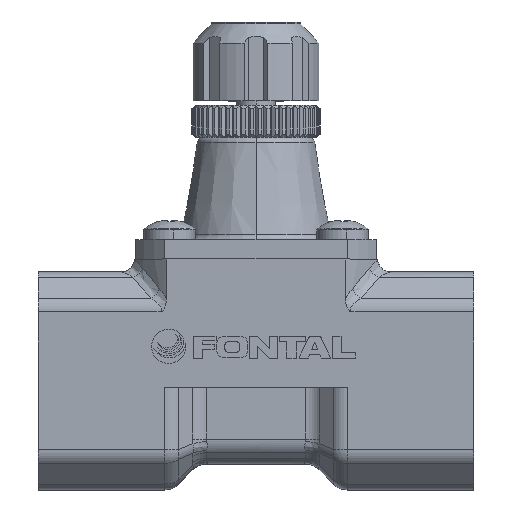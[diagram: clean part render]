
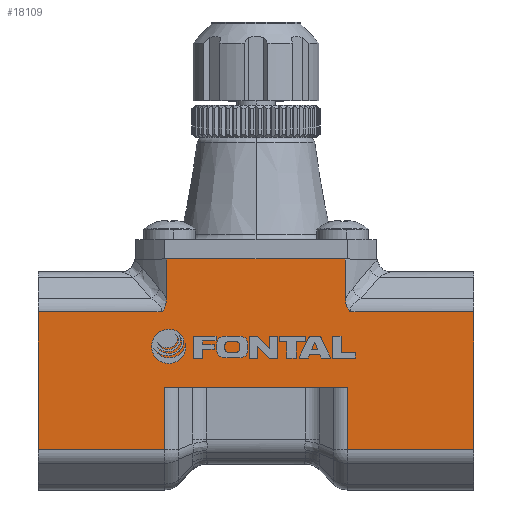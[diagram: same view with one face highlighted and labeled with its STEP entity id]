
A CAD part, top view. The second image highlights one B-rep face of the part: STEP entity #18109.
In plain terms, the highlighted planar face has unit normal (0, 0, 1) as drawn and (-1, 0, 0) by its records, which use the part's own axes.
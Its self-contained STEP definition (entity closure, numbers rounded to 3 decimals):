
#220 = CARTESIAN_POINT ( 'NONE',  ( -17., -9.757, 34. ) ) ;
#242 = DIRECTION ( 'NONE',  ( 0., 0., 1. ) ) ;
#511 = CARTESIAN_POINT ( 'NONE',  ( -17., 13.466, -13.978 ) ) ;
#575 = CARTESIAN_POINT ( 'NONE',  ( -17., 13.098, -14.033 ) ) ;
#764 = CARTESIAN_POINT ( 'NONE',  ( -17., 13.84, -13.964 ) ) ;
#838 = VERTEX_POINT ( 'NONE', #16620 ) ;
#842 = CARTESIAN_POINT ( 'NONE',  ( -17., 10.26, -13.964 ) ) ;
#843 = CARTESIAN_POINT ( 'NONE',  ( -17., -9.757, -34. ) ) ;
#1017 = VERTEX_POINT ( 'NONE', #11555 ) ;
#1376 = VECTOR ( 'NONE', #15340, 1000. ) ;
#1494 = CARTESIAN_POINT ( 'NONE',  ( -17., 12.141, 14.396 ) ) ;
#1591 = CARTESIAN_POINT ( 'NONE',  ( -17., 11.757, 34. ) ) ;
#1682 = EDGE_CURVE ( 'NONE', #10373, #7905, #14264, .T. ) ;
#1846 = EDGE_CURVE ( 'NONE', #838, #14565, #6439, .T. ) ;
#1975 = CARTESIAN_POINT ( 'NONE',  ( -17., 12.142, -14.395 ) ) ;
#2184 = DIRECTION ( 'NONE',  ( 0., -1., 0. ) ) ;
#2778 = ORIENTED_EDGE ( 'NONE', *, *, #6219, .T. ) ;
#2970 = VERTEX_POINT ( 'NONE', #18181 ) ;
#3002 = CARTESIAN_POINT ( 'NONE',  ( -17., 0., 34. ) ) ;
#3122 = CARTESIAN_POINT ( 'NONE',  ( -17., 11.83, 14.604 ) ) ;
#3200 = CARTESIAN_POINT ( 'NONE',  ( -17., 13., 34. ) ) ;
#3213 = LINE ( 'NONE', #842, #11991 ) ;
#3458 = CARTESIAN_POINT ( 'NONE',  ( -17., 11.906, -14.547 ) ) ;
#3623 = ORIENTED_EDGE ( 'NONE', *, *, #12950, .T. ) ;
#3643 = DIRECTION ( 'NONE',  ( -1., 0., 0. ) ) ;
#3830 = LINE ( 'NONE', #10091, #12393 ) ;
#3950 = CARTESIAN_POINT ( 'NONE',  ( -17., -9.757, -14.243 ) ) ;
#4110 = EDGE_CURVE ( 'NONE', #14861, #11381, #3213, .T. ) ;
#4256 = LINE ( 'NONE', #220, #15692 ) ;
#4329 = ORIENTED_EDGE ( 'NONE', *, *, #5405, .T. ) ;
#4428 = CARTESIAN_POINT ( 'NONE',  ( -17., 13.84, 13.964 ) ) ;
#4915 = CARTESIAN_POINT ( 'NONE',  ( -17., 12.387, -14.263 ) ) ;
#4934 = CARTESIAN_POINT ( 'NONE',  ( -17., 11.757, -14.663 ) ) ;
#5208 = LINE ( 'NONE', #11065, #1376 ) ;
#5322 = ORIENTED_EDGE ( 'NONE', *, *, #1682, .T. ) ;
#5405 = EDGE_CURVE ( 'NONE', #7905, #9898, #12638, .T. ) ;
#5795 = DIRECTION ( 'NONE',  ( 0., 0., -1. ) ) ;
#5829 = DIRECTION ( 'NONE',  ( 0., -1., 0. ) ) ;
#6130 = DIRECTION ( 'NONE',  ( 0., 0., 1. ) ) ;
#6219 = EDGE_CURVE ( 'NONE', #9898, #8560, #4256, .T. ) ;
#6297 = VERTEX_POINT ( 'NONE', #8821 ) ;
#6368 = CARTESIAN_POINT ( 'NONE',  ( -17., 11.757, -14.663 ) ) ;
#6384 = CARTESIAN_POINT ( 'NONE',  ( -17., 20., -19. ) ) ;
#6439 = LINE ( 'NONE', #3200, #11605 ) ;
#6655 = CARTESIAN_POINT ( 'NONE',  ( -17., 0., 14.243 ) ) ;
#6673 = PLANE ( 'NONE',  #16126 ) ;
#6918 = EDGE_CURVE ( 'NONE', #13322, #17934, #14985, .T. ) ;
#7198 = CARTESIAN_POINT ( 'NONE',  ( -17., 20., -13.964 ) ) ;
#7221 = CARTESIAN_POINT ( 'NONE',  ( -17., 11.757, 14.663 ) ) ;
#7277 = CARTESIAN_POINT ( 'NONE',  ( -17., 12.561, 14.19 ) ) ;
#7356 = CARTESIAN_POINT ( 'NONE',  ( -17., -9.757, 34. ) ) ;
#7526 = LINE ( 'NONE', #16191, #14433 ) ;
#7905 = VERTEX_POINT ( 'NONE', #16326 ) ;
#7963 = DIRECTION ( 'NONE',  ( 0., 0., 1. ) ) ;
#8560 = VERTEX_POINT ( 'NONE', #3950 ) ;
#8654 = CARTESIAN_POINT ( 'NONE',  ( -17., 11.906, 14.547 ) ) ;
#8714 = CARTESIAN_POINT ( 'NONE',  ( -17., 13.096, 14.017 ) ) ;
#8779 = CARTESIAN_POINT ( 'NONE',  ( -17., 12.061, 14.444 ) ) ;
#8821 = CARTESIAN_POINT ( 'NONE',  ( -17., 0., -14.243 ) ) ;
#9126 = CARTESIAN_POINT ( 'NONE',  ( -17., 13.84, -13.964 ) ) ;
#9147 = CARTESIAN_POINT ( 'NONE',  ( -17., 13., -34. ) ) ;
#9435 = DIRECTION ( 'NONE',  ( 0., 0., 1. ) ) ;
#9584 = CARTESIAN_POINT ( 'NONE',  ( -17., 11.757, 14.663 ) ) ;
#9856 = EDGE_CURVE ( 'NONE', #838, #13322, #7526, .T. ) ;
#9898 = VERTEX_POINT ( 'NONE', #843 ) ;
#10091 = CARTESIAN_POINT ( 'NONE',  ( -17., -9.757, 14.243 ) ) ;
#10124 = LINE ( 'NONE', #7356, #13474 ) ;
#10160 = CARTESIAN_POINT ( 'NONE',  ( -17., 13.464, 13.964 ) ) ;
#10186 = EDGE_LOOP ( 'NONE', ( #14265, #12706, #3623, #17964, #15820, #14203, #5322, #4329, #2778, #15157, #13163, #16021, #11203, #11326 ) ) ;
#10373 = VERTEX_POINT ( 'NONE', #4934 ) ;
#10393 = EDGE_CURVE ( 'NONE', #14861, #1017, #12019, .T. ) ;
#10487 = VECTOR ( 'NONE', #5795, 1000. ) ;
#10637 = CARTESIAN_POINT ( 'NONE',  ( -17., 12.062, -14.443 ) ) ;
#11065 = CARTESIAN_POINT ( 'NONE',  ( -17., 10.26, 13.964 ) ) ;
#11203 = ORIENTED_EDGE ( 'NONE', *, *, #17892, .T. ) ;
#11326 = ORIENTED_EDGE ( 'NONE', *, *, #1846, .F. ) ;
#11381 = VERTEX_POINT ( 'NONE', #764 ) ;
#11555 = CARTESIAN_POINT ( 'NONE',  ( -17., 20., 13.964 ) ) ;
#11605 = VECTOR ( 'NONE', #13309, 1000. ) ;
#11977 = CARTESIAN_POINT ( 'NONE',  ( -17., -9.757, 34. ) ) ;
#11991 = VECTOR ( 'NONE', #12468, 1000. ) ;
#12019 = LINE ( 'NONE', #6384, #15787 ) ;
#12132 = VECTOR ( 'NONE', #14008, 1000. ) ;
#12158 = CARTESIAN_POINT ( 'NONE',  ( -17., 12.915, -14.075 ) ) ;
#12393 = VECTOR ( 'NONE', #5829, 1000. ) ;
#12468 = DIRECTION ( 'NONE',  ( 0., -1., 0. ) ) ;
#12638 = LINE ( 'NONE', #9147, #13063 ) ;
#12706 = ORIENTED_EDGE ( 'NONE', *, *, #6918, .T. ) ;
#12950 = EDGE_CURVE ( 'NONE', #17934, #1017, #5208, .T. ) ;
#13025 = EDGE_CURVE ( 'NONE', #14247, #2970, #3830, .T. ) ;
#13063 = VECTOR ( 'NONE', #2184, 1000. ) ;
#13069 = DIRECTION ( 'NONE',  ( 0., 0., 1. ) ) ;
#13163 = ORIENTED_EDGE ( 'NONE', *, *, #15509, .T. ) ;
#13251 = CARTESIAN_POINT ( 'NONE',  ( -17., 13.84, 13.964 ) ) ;
#13309 = DIRECTION ( 'NONE',  ( 0., -1., 0. ) ) ;
#13322 = VERTEX_POINT ( 'NONE', #9584 ) ;
#13443 = CARTESIAN_POINT ( 'NONE',  ( -17., 13.652, -13.964 ) ) ;
#13474 = VECTOR ( 'NONE', #13069, 1000. ) ;
#13561 = CARTESIAN_POINT ( 'NONE',  ( -17., 11.83, -14.604 ) ) ;
#13852 = CARTESIAN_POINT ( 'NONE',  ( -17., 0., 0. ) ) ;
#14008 = DIRECTION ( 'NONE',  ( 0., 1., 0. ) ) ;
#14203 = ORIENTED_EDGE ( 'NONE', *, *, #16210, .T. ) ;
#14247 = VERTEX_POINT ( 'NONE', #6655 ) ;
#14264 = LINE ( 'NONE', #1591, #10487 ) ;
#14265 = ORIENTED_EDGE ( 'NONE', *, *, #9856, .T. ) ;
#14362 = EDGE_CURVE ( 'NONE', #8560, #6297, #15892, .T. ) ;
#14433 = VECTOR ( 'NONE', #17635, 1000. ) ;
#14565 = VERTEX_POINT ( 'NONE', #11977 ) ;
#14861 = VERTEX_POINT ( 'NONE', #7198 ) ;
#14985 = B_SPLINE_CURVE_WITH_KNOTS ( 'NONE', 3,
 ( #7221, #3122, #8654, #8779, #1494, #15828, #7277, #8714, #10160, #4428 ),
 .UNSPECIFIED., .F., .F.,
 ( 4, 2, 2, 2, 4 ),
 ( 0., 0., 0.001, 0.001, 0.002 ),
 .UNSPECIFIED. ) ;
#15157 = ORIENTED_EDGE ( 'NONE', *, *, #14362, .T. ) ;
#15340 = DIRECTION ( 'NONE',  ( 0., 1., 0. ) ) ;
#15509 = EDGE_CURVE ( 'NONE', #6297, #14247, #17658, .T. ) ;
#15692 = VECTOR ( 'NONE', #6130, 1000. ) ;
#15787 = VECTOR ( 'NONE', #7963, 1000. ) ;
#15820 = ORIENTED_EDGE ( 'NONE', *, *, #4110, .T. ) ;
#15828 = CARTESIAN_POINT ( 'NONE',  ( -17., 12.387, 14.263 ) ) ;
#15892 = LINE ( 'NONE', #18317, #12132 ) ;
#16021 = ORIENTED_EDGE ( 'NONE', *, *, #13025, .T. ) ;
#16126 = AXIS2_PLACEMENT_3D ( 'NONE', #13852, #3643, #9435 ) ;
#16191 = CARTESIAN_POINT ( 'NONE',  ( -17., 11.757, 34. ) ) ;
#16210 = EDGE_CURVE ( 'NONE', #11381, #10373, #17336, .T. ) ;
#16326 = CARTESIAN_POINT ( 'NONE',  ( -17., 11.757, -34. ) ) ;
#16400 = CARTESIAN_POINT ( 'NONE',  ( -17., 12.559, -14.191 ) ) ;
#16606 = FACE_OUTER_BOUND ( 'NONE', #10186, .T. ) ;
#16620 = CARTESIAN_POINT ( 'NONE',  ( -17., 11.757, 34. ) ) ;
#17336 = B_SPLINE_CURVE_WITH_KNOTS ( 'NONE', 3,
 ( #9126, #13443, #511, #575, #12158, #16400, #4915, #1975, #10637, #3458, #13561, #6368 ),
 .UNSPECIFIED., .F., .F.,
 ( 4, 2, 2, 2, 2, 4 ),
 ( 0., 0.001, 0.001, 0.002, 0.002, 0.002 ),
 .UNSPECIFIED. ) ;
#17444 = VECTOR ( 'NONE', #242, 1000. ) ;
#17635 = DIRECTION ( 'NONE',  ( 0., 0., -1. ) ) ;
#17658 = LINE ( 'NONE', #3002, #17444 ) ;
#17892 = EDGE_CURVE ( 'NONE', #2970, #14565, #10124, .T. ) ;
#17934 = VERTEX_POINT ( 'NONE', #13251 ) ;
#17964 = ORIENTED_EDGE ( 'NONE', *, *, #10393, .F. ) ;
#18109 = ADVANCED_FACE ( 'NONE', ( #16606 ), #6673, .T. ) ;
#18181 = CARTESIAN_POINT ( 'NONE',  ( -17., -9.757, 14.243 ) ) ;
#18317 = CARTESIAN_POINT ( 'NONE',  ( -17., 0., -14.243 ) ) ;
